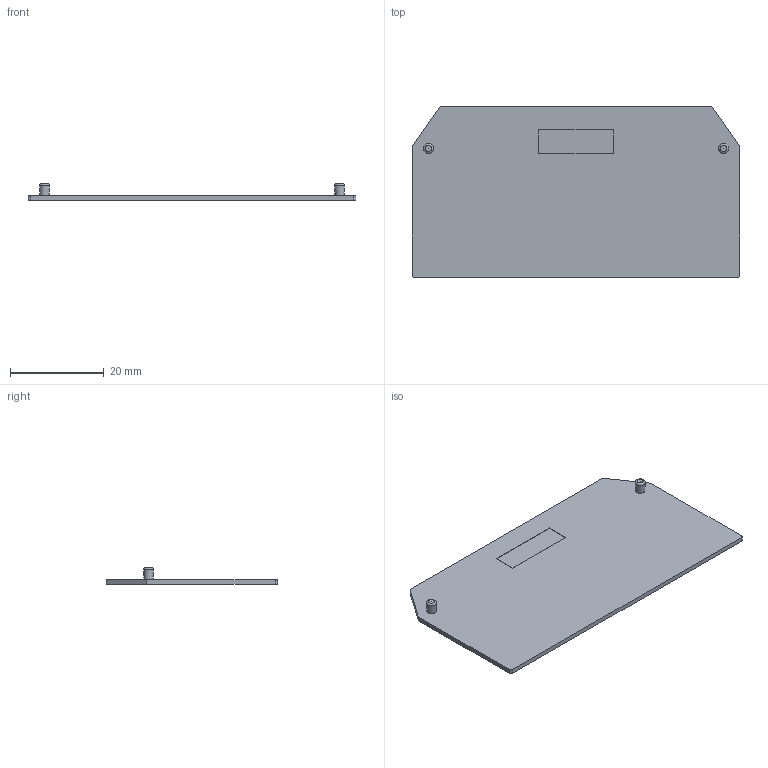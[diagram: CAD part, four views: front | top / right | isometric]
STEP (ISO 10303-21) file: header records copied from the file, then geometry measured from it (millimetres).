
FILE_DESCRIPTION(('Open CASCADE Model'),'2;1');
FILE_NAME('Open CASCADE Shape Model','2022-04-14T15:33:06',('Author'),( 'Open CASCADE'),'Open CASCADE STEP processor 6.5','Open CASCADE 6.5' ,'Unknown');
FILE_SCHEMA(('AUTOMOTIVE_DESIGN { 1 0 10303 214 1 1 1 1 }'));
Length unit declared in the file: millimetre
Products named in the file (24): CADSOFTTOOLS 5; CADSOFTTOOLS 5.1; CADSOFTTOOLS 5.2; CADSOFTTOOLS 5.3; CADSOFTTOOLS 5.4; CADSOFTTOOLS 5.5; CADSOFTTOOLS 5.6; CADSOFTTOOLS 5.7; CADSOFTTOOLS 5.8; CADSOFTTOOLS 5.9; CADSOFTTOOLS 5.10; CADSOFTTOOLS 5.11; CADSOFTTOOLS 5.12; CADSOFTTOOLS 5.13; CADSOFTTOOLS 5.14; CADSOFTTOOLS 5.15; CADSOFTTOOLS 5.16; CADSOFTTOOLS 5.17; CADSOFTTOOLS 5.18; CADSOFTTOOLS 5.19; CADSOFTTOOLS 5.20; CADSOFTTOOLS 5.21; CADSOFTTOOLS 5.22; CADSOFTTOOLS 5.23
Assembly tree (23 placements, depth 2):
  CADSOFTTOOLS 5
    CADSOFTTOOLS 5.1
    CADSOFTTOOLS 5.2
    CADSOFTTOOLS 5.3
    CADSOFTTOOLS 5.4
    CADSOFTTOOLS 5.5
    CADSOFTTOOLS 5.6
    CADSOFTTOOLS 5.7
    CADSOFTTOOLS 5.8
    CADSOFTTOOLS 5.9
    CADSOFTTOOLS 5.10
    CADSOFTTOOLS 5.11
    CADSOFTTOOLS 5.12
    CADSOFTTOOLS 5.13
    CADSOFTTOOLS 5.14
    CADSOFTTOOLS 5.15
    CADSOFTTOOLS 5.16
    CADSOFTTOOLS 5.17
    CADSOFTTOOLS 5.18
    CADSOFTTOOLS 5.19
    CADSOFTTOOLS 5.20
    CADSOFTTOOLS 5.21
    CADSOFTTOOLS 5.22
    CADSOFTTOOLS 5.23
Bounding box: 70 x 36.5 x 3.52 mm (x, y, z)
Surface area: 5258.7 mm2 (no closed solid volume)
Topology: 0 solids, 23 shells, 23 faces, 110 edges, 102 vertices
Faces by surface type: plane 13, cone 6, cylinder 2, torus 2
Entity records: 2756 total; most frequent: CARTESIAN_POINT 881, DIRECTION 302, LINE 148, VECTOR 148, ORIENTED_EDGE 112, PCURVE 112, DEFINITIONAL_REPRESENTATION 112, EDGE_CURVE 106
